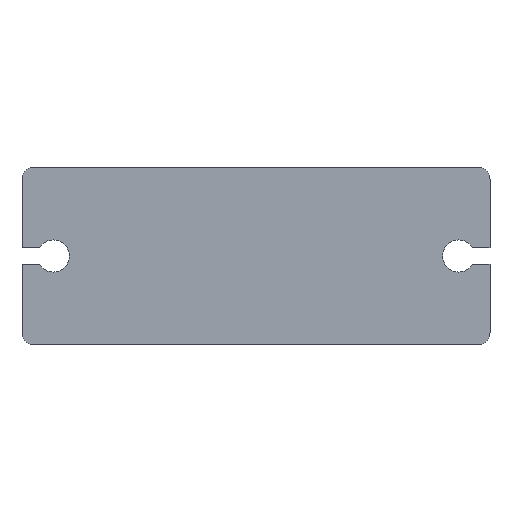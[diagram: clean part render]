
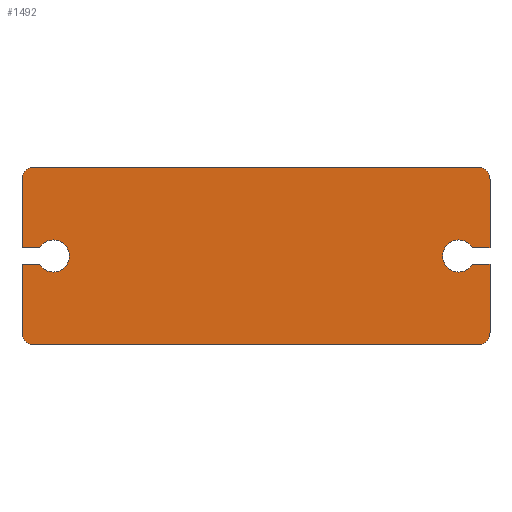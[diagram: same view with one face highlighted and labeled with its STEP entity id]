
A CAD part, front view. The second image highlights one B-rep face of the part: STEP entity #1492.
In plain terms, the highlighted planar face has unit normal (0, -1, 0).
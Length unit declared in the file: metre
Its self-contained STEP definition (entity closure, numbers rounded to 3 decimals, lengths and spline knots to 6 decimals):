
#124=LINE('',#3618,#222);
#128=LINE('',#3627,#226);
#132=LINE('',#3636,#230);
#136=LINE('',#3645,#234);
#150=LINE('',#3683,#248);
#151=LINE('',#3687,#249);
#152=LINE('',#3691,#250);
#153=LINE('',#3693,#251);
#154=LINE('',#3697,#252);
#155=LINE('',#3701,#253);
#222=VECTOR('',#1950,1.);
#226=VECTOR('',#1956,1.);
#230=VECTOR('',#1962,1.);
#234=VECTOR('',#1968,1.);
#248=VECTOR('',#2006,1.);
#249=VECTOR('',#2009,1.);
#250=VECTOR('',#2012,1.);
#251=VECTOR('',#2015,1.);
#252=VECTOR('',#2018,1.);
#253=VECTOR('',#2021,1.);
#613=ORIENTED_EDGE('',*,*,#919,.F.);
#614=ORIENTED_EDGE('',*,*,#945,.F.);
#615=ORIENTED_EDGE('',*,*,#946,.F.);
#616=ORIENTED_EDGE('',*,*,#947,.F.);
#617=ORIENTED_EDGE('',*,*,#948,.F.);
#618=ORIENTED_EDGE('',*,*,#949,.F.);
#619=ORIENTED_EDGE('',*,*,#927,.F.);
#620=ORIENTED_EDGE('',*,*,#950,.F.);
#621=ORIENTED_EDGE('',*,*,#923,.F.);
#622=ORIENTED_EDGE('',*,*,#951,.F.);
#623=ORIENTED_EDGE('',*,*,#952,.F.);
#624=ORIENTED_EDGE('',*,*,#953,.F.);
#625=ORIENTED_EDGE('',*,*,#954,.F.);
#626=ORIENTED_EDGE('',*,*,#955,.F.);
#627=ORIENTED_EDGE('',*,*,#915,.F.);
#628=ORIENTED_EDGE('',*,*,#956,.F.);
#915=EDGE_CURVE('',#1077,#1078,#124,.T.);
#919=EDGE_CURVE('',#1081,#1082,#128,.T.);
#923=EDGE_CURVE('',#1085,#1086,#132,.T.);
#927=EDGE_CURVE('',#1089,#1090,#136,.T.);
#945=EDGE_CURVE('',#1101,#1081,#150,.T.);
#946=EDGE_CURVE('',#1102,#1101,#1186,.T.);
#947=EDGE_CURVE('',#1103,#1102,#151,.T.);
#948=EDGE_CURVE('',#1104,#1103,#1187,.T.);
#949=EDGE_CURVE('',#1090,#1104,#152,.T.);
#950=EDGE_CURVE('',#1086,#1089,#1188,.T.);
#951=EDGE_CURVE('',#1105,#1085,#153,.T.);
#952=EDGE_CURVE('',#1106,#1105,#1189,.T.);
#953=EDGE_CURVE('',#1107,#1106,#154,.T.);
#954=EDGE_CURVE('',#1108,#1107,#1190,.T.);
#955=EDGE_CURVE('',#1078,#1108,#155,.T.);
#956=EDGE_CURVE('',#1082,#1077,#1191,.T.);
#1077=VERTEX_POINT('',#3619);
#1078=VERTEX_POINT('',#3620);
#1081=VERTEX_POINT('',#3628);
#1082=VERTEX_POINT('',#3629);
#1085=VERTEX_POINT('',#3637);
#1086=VERTEX_POINT('',#3638);
#1089=VERTEX_POINT('',#3646);
#1090=VERTEX_POINT('',#3647);
#1101=VERTEX_POINT('',#3684);
#1102=VERTEX_POINT('',#3686);
#1103=VERTEX_POINT('',#3688);
#1104=VERTEX_POINT('',#3690);
#1105=VERTEX_POINT('',#3694);
#1106=VERTEX_POINT('',#3696);
#1107=VERTEX_POINT('',#3698);
#1108=VERTEX_POINT('',#3700);
#1186=CIRCLE('',#1649,0.00085);
#1187=CIRCLE('',#1650,0.00085);
#1188=CIRCLE('',#1651,0.0011);
#1189=CIRCLE('',#1652,0.00085);
#1190=CIRCLE('',#1653,0.00085);
#1191=CIRCLE('',#1654,0.0011);
#1272=EDGE_LOOP('',(#613,#614,#615,#616,#617,#618,#619,#620,#621,#622,#623,
#624,#625,#626,#627,#628));
#1369=FACE_BOUND('',#1272,.T.);
#1410=PLANE('',#1648);
#1492=ADVANCED_FACE('',(#1369),#1410,.T.);
#1648=AXIS2_PLACEMENT_3D('',#3682,#2004,#2005);
#1649=AXIS2_PLACEMENT_3D('',#3685,#2007,#2008);
#1650=AXIS2_PLACEMENT_3D('',#3689,#2010,#2011);
#1651=AXIS2_PLACEMENT_3D('',#3692,#2013,#2014);
#1652=AXIS2_PLACEMENT_3D('',#3695,#2016,#2017);
#1653=AXIS2_PLACEMENT_3D('',#3699,#2019,#2020);
#1654=AXIS2_PLACEMENT_3D('',#3702,#2022,#2023);
#1950=DIRECTION('',(-1.,0.,0.));
#1956=DIRECTION('',(1.,0.,0.));
#1962=DIRECTION('',(-1.,0.,0.));
#1968=DIRECTION('',(1.,0.,0.));
#2004=DIRECTION('',(0.,-1.,0.));
#2005=DIRECTION('',(0.,0.,-1.));
#2006=DIRECTION('',(0.,0.,1.));
#2007=DIRECTION('',(0.,1.,0.));
#2008=DIRECTION('',(0.,0.,-1.));
#2009=DIRECTION('',(-1.,0.,0.));
#2010=DIRECTION('',(0.,1.,0.));
#2011=DIRECTION('',(0.,0.,-1.));
#2012=DIRECTION('',(0.,0.,-1.));
#2013=DIRECTION('',(0.,-1.,0.));
#2014=DIRECTION('',(0.,0.,-1.));
#2015=DIRECTION('',(0.,0.,-1.));
#2016=DIRECTION('',(0.,1.,0.));
#2017=DIRECTION('',(0.,0.,1.));
#2018=DIRECTION('',(1.,0.,0.));
#2019=DIRECTION('',(0.,1.,0.));
#2020=DIRECTION('',(0.,0.,-1.));
#2021=DIRECTION('',(0.,0.,1.));
#2022=DIRECTION('',(0.,-1.,0.));
#2023=DIRECTION('',(0.,0.,-1.));
#3618=CARTESIAN_POINT('',(-0.0152,0.00515,0.00055));
#3619=CARTESIAN_POINT('',(-0.014853,0.00515,0.00055));
#3620=CARTESIAN_POINT('',(-0.01605,0.00515,0.00055));
#3627=CARTESIAN_POINT('',(-0.0152,0.00515,-0.00055));
#3628=CARTESIAN_POINT('',(-0.01605,0.00515,-0.00055));
#3629=CARTESIAN_POINT('',(-0.014853,0.00515,-0.00055));
#3636=CARTESIAN_POINT('',(-0.0152,0.00515,0.00055));
#3637=CARTESIAN_POINT('',(0.01605,0.00515,0.00055));
#3638=CARTESIAN_POINT('',(0.014853,0.00515,0.00055));
#3645=CARTESIAN_POINT('',(-0.0152,0.00515,-0.00055));
#3646=CARTESIAN_POINT('',(0.014853,0.00515,-0.00055));
#3647=CARTESIAN_POINT('',(0.01605,0.00515,-0.00055));
#3682=CARTESIAN_POINT('',(-0.0152,0.00515,0.00525));
#3683=CARTESIAN_POINT('',(-0.01605,0.00515,0.00525));
#3684=CARTESIAN_POINT('',(-0.01605,0.00515,-0.00525));
#3685=CARTESIAN_POINT('',(-0.0152,0.00515,-0.00525));
#3686=CARTESIAN_POINT('',(-0.0152,0.00515,-0.0061));
#3687=CARTESIAN_POINT('',(-0.0152,0.00515,-0.0061));
#3688=CARTESIAN_POINT('',(0.0152,0.00515,-0.0061));
#3689=CARTESIAN_POINT('',(0.0152,0.00515,-0.00525));
#3690=CARTESIAN_POINT('',(0.01605,0.00515,-0.00525));
#3691=CARTESIAN_POINT('',(0.01605,0.00515,0.00525));
#3692=CARTESIAN_POINT('',(0.0139,0.00515,0.));
#3693=CARTESIAN_POINT('',(0.01605,0.00515,0.00525));
#3694=CARTESIAN_POINT('',(0.01605,0.00515,0.00525));
#3695=CARTESIAN_POINT('',(0.0152,0.00515,0.00525));
#3696=CARTESIAN_POINT('',(0.0152,0.00515,0.0061));
#3697=CARTESIAN_POINT('',(-0.0152,0.00515,0.0061));
#3698=CARTESIAN_POINT('',(-0.0152,0.00515,0.0061));
#3699=CARTESIAN_POINT('',(-0.0152,0.00515,0.00525));
#3700=CARTESIAN_POINT('',(-0.01605,0.00515,0.00525));
#3701=CARTESIAN_POINT('',(-0.01605,0.00515,0.00525));
#3702=CARTESIAN_POINT('',(-0.0139,0.00515,0.));
